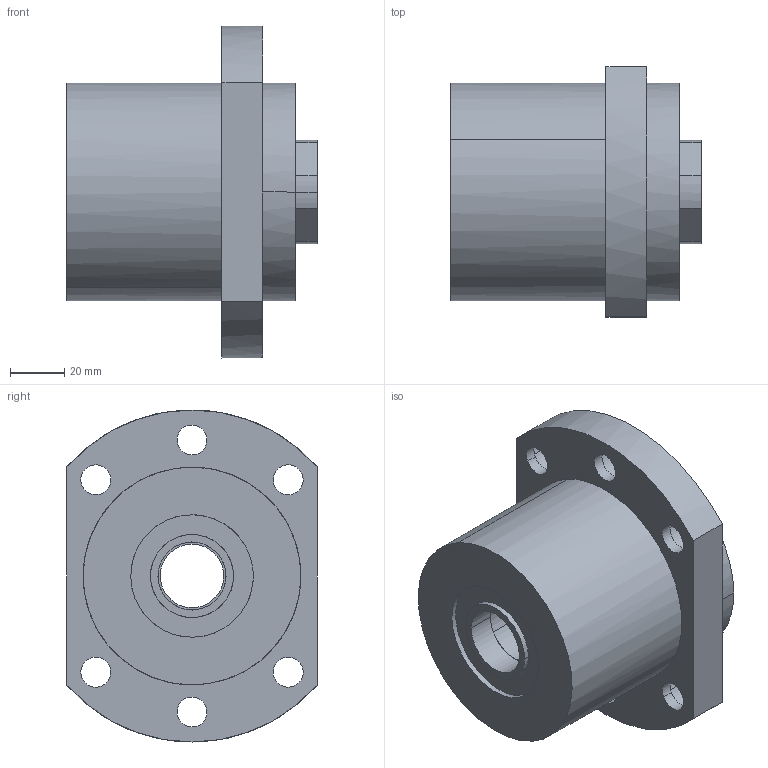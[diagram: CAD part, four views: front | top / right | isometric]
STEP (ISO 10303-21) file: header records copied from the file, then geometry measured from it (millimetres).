
FILE_DESCRIPTION(('CATIA V5 STEP Exchange'),'2;1');
FILE_NAME('D:\서포트 완성도면\FK\FK25DFT.stp','2014-03-26T10:20:22+00:00',('none'),('none'),'CATIA Version 5 Release 18 GA (IN-10)','CATIA V5 STEP AP203','none');
FILE_SCHEMA(('CONFIG_CONTROL_DESIGN'));
Length unit declared in the file: millimetre
Products named in the file (1): FK25DFT
Assembly tree (4 placements, depth 2):
  FK25DFT
    #56
    #2832  x2
    #3108
Bounding box: 92 x 92 x 122 mm (x, y, z)
Volume: 437616.1 mm3; surface area: 60627.8 mm2
Topology: 4 solids, 4 shells, 82 faces, 188 edges, 126 vertices
Faces by surface type: cylinder 56, plane 26
Entity records: 3587 total; most frequent: CARTESIAN_POINT 1893, ORIENTED_EDGE 352, DIRECTION 245, EDGE_CURVE 176, VERTEX_POINT 118, EDGE_LOOP 106, AXIS2_PLACEMENT_3D 98, B_SPLINE_CURVE_WITH_KNOTS 81
